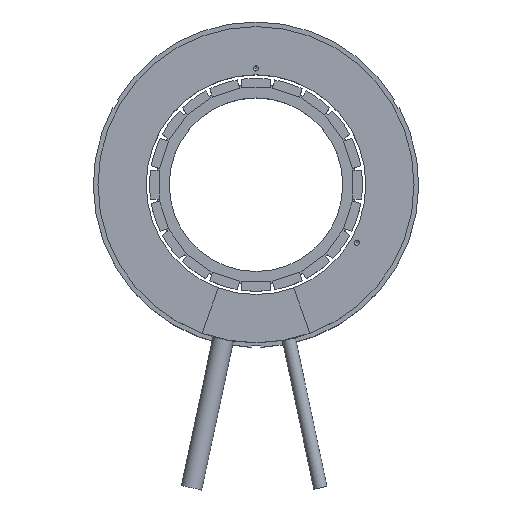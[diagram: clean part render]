
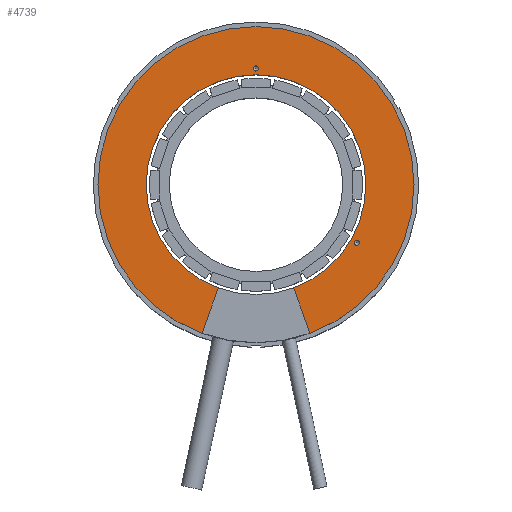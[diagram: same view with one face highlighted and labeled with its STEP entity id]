
A CAD part, top view. The second image highlights one B-rep face of the part: STEP entity #4739.
In plain terms, the highlighted planar face has unit normal (0, 0, 1).
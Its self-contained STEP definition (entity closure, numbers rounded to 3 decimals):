
#105=LINE('',#6867,#703);
#106=LINE('',#6868,#704);
#703=VECTOR('',#5481,1000.);
#704=VECTOR('',#5482,1000.);
#1325=ORIENTED_EDGE('',*,*,#2721,.T.);
#1326=ORIENTED_EDGE('',*,*,#2722,.T.);
#1327=ORIENTED_EDGE('',*,*,#2723,.F.);
#1328=ORIENTED_EDGE('',*,*,#2709,.T.);
#1329=ORIENTED_EDGE('',*,*,#2724,.F.);
#1330=ORIENTED_EDGE('',*,*,#2717,.F.);
#2709=EDGE_CURVE('',#3405,#3406,#3835,.T.);
#2717=EDGE_CURVE('',#3413,#3414,#3839,.T.);
#2721=EDGE_CURVE('',#3417,#3417,#3841,.T.);
#2722=EDGE_CURVE('',#3418,#3418,#3842,.T.);
#2723=EDGE_CURVE('',#3405,#3413,#105,.T.);
#2724=EDGE_CURVE('',#3414,#3406,#106,.T.);
#3405=VERTEX_POINT('',#6817);
#3406=VERTEX_POINT('',#6818);
#3413=VERTEX_POINT('',#6855);
#3414=VERTEX_POINT('',#6856);
#3417=VERTEX_POINT('',#6864);
#3418=VERTEX_POINT('',#6866);
#3835=CIRCLE('',#5040,51.);
#3839=CIRCLE('',#5046,35.45);
#3841=CIRCLE('',#5049,0.825);
#3842=CIRCLE('',#5050,0.825);
#3944=EDGE_LOOP('',(#1325));
#3945=EDGE_LOOP('',(#1326));
#3946=EDGE_LOOP('',(#1327,#1328,#1329,#1330));
#4234=FACE_BOUND('',#3944,.T.);
#4235=FACE_BOUND('',#3945,.T.);
#4236=FACE_BOUND('',#3946,.T.);
#4514=PLANE('',#5048);
#4739=ADVANCED_FACE('',(#4234,#4235,#4236),#4514,.T.);
#5040=AXIS2_PLACEMENT_3D('',#6816,#5455,#5456);
#5046=AXIS2_PLACEMENT_3D('',#6854,#5469,#5470);
#5048=AXIS2_PLACEMENT_3D('',#6862,#5475,#5476);
#5049=AXIS2_PLACEMENT_3D('',#6863,#5477,#5478);
#5050=AXIS2_PLACEMENT_3D('',#6865,#5479,#5480);
#5455=DIRECTION('',(0.,0.,1.));
#5456=DIRECTION('',(1.,0.,0.));
#5469=DIRECTION('',(0.,0.,1.));
#5470=DIRECTION('',(1.,0.,0.));
#5475=DIRECTION('',(0.,0.,1.));
#5476=DIRECTION('',(1.,0.,0.));
#5477=DIRECTION('',(0.,0.,-1.));
#5478=DIRECTION('',(0.,-1.,0.));
#5479=DIRECTION('',(0.,0.,-1.));
#5480=DIRECTION('',(0.,-1.,0.));
#5481=DIRECTION('',(-0.342,0.94,0.));
#5482=DIRECTION('',(-0.342,-0.94,0.));
#6816=CARTESIAN_POINT('',(0.,0.,34.));
#6817=CARTESIAN_POINT('',(17.443,-47.924,34.));
#6818=CARTESIAN_POINT('',(-17.443,-47.924,34.));
#6854=CARTESIAN_POINT('',(0.,0.,34.));
#6855=CARTESIAN_POINT('',(12.125,-33.312,34.));
#6856=CARTESIAN_POINT('',(-12.125,-33.312,34.));
#6862=CARTESIAN_POINT('',(35.45,0.,34.));
#6863=CARTESIAN_POINT('',(0.,37.5,34.));
#6864=CARTESIAN_POINT('',(0.,36.675,34.));
#6865=CARTESIAN_POINT('',(32.476,-18.75,34.));
#6866=CARTESIAN_POINT('',(32.476,-19.575,34.));
#6867=CARTESIAN_POINT('',(12.125,-33.312,34.));
#6868=CARTESIAN_POINT('',(-12.125,-33.312,34.));
